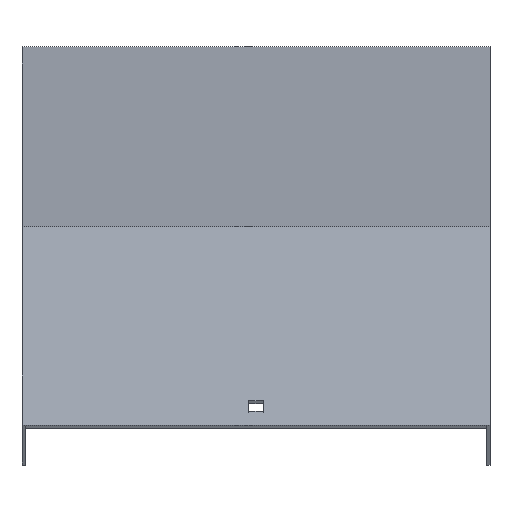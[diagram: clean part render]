
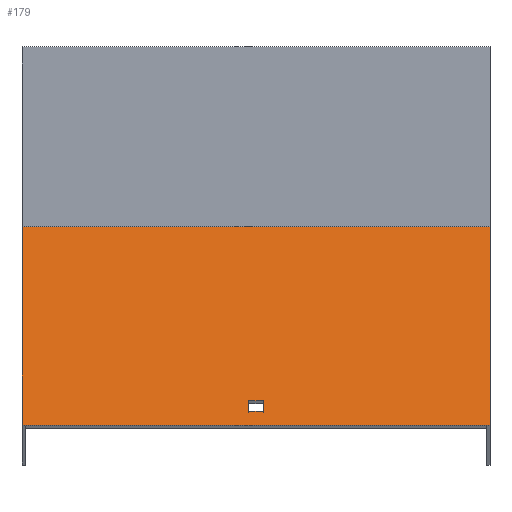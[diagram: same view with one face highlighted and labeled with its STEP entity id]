
A CAD part, top view. The second image highlights one B-rep face of the part: STEP entity #179.
In plain terms, the highlighted planar face has unit normal (0, 0.866, 0.5).
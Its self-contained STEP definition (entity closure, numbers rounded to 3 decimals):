
#26 = AXIS2_PLACEMENT_3D ( 'NONE', #775, #314, #49 ) ;
#40 = LINE ( 'NONE', #506, #609 ) ;
#49 = DIRECTION ( 'NONE',  ( 0., 0.5, -0.866 ) ) ;
#58 = FACE_BOUND ( 'NONE', #307, .T. ) ;
#62 = VECTOR ( 'NONE', #709, 1000. ) ;
#89 = ORIENTED_EDGE ( 'NONE', *, *, #629, .T. ) ;
#94 = EDGE_CURVE ( 'NONE', #106, #350, #237, .T. ) ;
#100 = DIRECTION ( 'NONE',  ( 0., 0.5, -0.866 ) ) ;
#106 = VERTEX_POINT ( 'NONE', #170 ) ;
#111 = VERTEX_POINT ( 'NONE', #748 ) ;
#137 = EDGE_CURVE ( 'NONE', #837, #717, #711, .T. ) ;
#144 = CARTESIAN_POINT ( 'NONE',  ( 3.25, -138.808, 604.678 ) ) ;
#168 = DIRECTION ( 'NONE',  ( -1., 0., 0. ) ) ;
#170 = CARTESIAN_POINT ( 'NONE',  ( 101.5, -144.808, 615.07 ) ) ;
#179 = ADVANCED_FACE ( 'NONE', ( #58, #246 ), #444, .F. ) ;
#229 = CARTESIAN_POINT ( 'NONE',  ( -3.25, -59.808, 467.846 ) ) ;
#237 = LINE ( 'NONE', #296, #316 ) ;
#246 = FACE_OUTER_BOUND ( 'NONE', #685, .T. ) ;
#249 = VECTOR ( 'NONE', #100, 1000. ) ;
#258 = ORIENTED_EDGE ( 'NONE', *, *, #137, .T. ) ;
#266 = CARTESIAN_POINT ( 'NONE',  ( 101.5, -59.808, 467.846 ) ) ;
#296 = CARTESIAN_POINT ( 'NONE',  ( 101.5, -144.808, 615.07 ) ) ;
#307 = EDGE_LOOP ( 'NONE', ( #412, #258, #89, #683 ) ) ;
#314 = DIRECTION ( 'NONE',  ( 0., -0.866, -0.5 ) ) ;
#316 = VECTOR ( 'NONE', #485, 1000. ) ;
#324 = DIRECTION ( 'NONE',  ( 1., 0., 0. ) ) ;
#333 = VERTEX_POINT ( 'NONE', #546 ) ;
#340 = EDGE_CURVE ( 'NONE', #111, #837, #534, .T. ) ;
#350 = VERTEX_POINT ( 'NONE', #472 ) ;
#370 = VECTOR ( 'NONE', #536, 1000. ) ;
#379 = ORIENTED_EDGE ( 'NONE', *, *, #94, .F. ) ;
#407 = CARTESIAN_POINT ( 'NONE',  ( 101.5, -58.491, 465.566 ) ) ;
#411 = LINE ( 'NONE', #761, #788 ) ;
#412 = ORIENTED_EDGE ( 'NONE', *, *, #340, .T. ) ;
#435 = DIRECTION ( 'NONE',  ( -1., 0., 0. ) ) ;
#444 = PLANE ( 'NONE',  #26 ) ;
#451 = CARTESIAN_POINT ( 'NONE',  ( 3.25, -59.808, 467.846 ) ) ;
#472 = CARTESIAN_POINT ( 'NONE',  ( -101.5, -144.808, 615.07 ) ) ;
#473 = VECTOR ( 'NONE', #743, 1000. ) ;
#476 = CARTESIAN_POINT ( 'NONE',  ( -101.5, -58.491, 465.566 ) ) ;
#478 = CARTESIAN_POINT ( 'NONE',  ( 101.5, -134.308, 596.884 ) ) ;
#481 = CARTESIAN_POINT ( 'NONE',  ( -101.5, -59.808, 467.846 ) ) ;
#485 = DIRECTION ( 'NONE',  ( -1., 0., 0. ) ) ;
#506 = CARTESIAN_POINT ( 'NONE',  ( 101.5, -58.491, 465.566 ) ) ;
#516 = VERTEX_POINT ( 'NONE', #407 ) ;
#534 = LINE ( 'NONE', #478, #719 ) ;
#536 = DIRECTION ( 'NONE',  ( 0., -0.5, 0.866 ) ) ;
#546 = CARTESIAN_POINT ( 'NONE',  ( -3.25, -138.808, 604.678 ) ) ;
#549 = VERTEX_POINT ( 'NONE', #476 ) ;
#561 = EDGE_CURVE ( 'NONE', #516, #106, #814, .T. ) ;
#590 = EDGE_CURVE ( 'NONE', #549, #350, #680, .T. ) ;
#609 = VECTOR ( 'NONE', #435, 1000. ) ;
#616 = EDGE_CURVE ( 'NONE', #333, #111, #626, .T. ) ;
#626 = LINE ( 'NONE', #229, #249 ) ;
#629 = EDGE_CURVE ( 'NONE', #717, #333, #411, .T. ) ;
#634 = CARTESIAN_POINT ( 'NONE',  ( 3.25, -134.308, 596.884 ) ) ;
#641 = EDGE_CURVE ( 'NONE', #516, #549, #40, .T. ) ;
#644 = ORIENTED_EDGE ( 'NONE', *, *, #561, .F. ) ;
#680 = LINE ( 'NONE', #481, #473 ) ;
#683 = ORIENTED_EDGE ( 'NONE', *, *, #616, .T. ) ;
#685 = EDGE_LOOP ( 'NONE', ( #813, #379, #644, #697 ) ) ;
#697 = ORIENTED_EDGE ( 'NONE', *, *, #641, .T. ) ;
#709 = DIRECTION ( 'NONE',  ( 0., -0.5, 0.866 ) ) ;
#711 = LINE ( 'NONE', #451, #62 ) ;
#717 = VERTEX_POINT ( 'NONE', #144 ) ;
#719 = VECTOR ( 'NONE', #324, 1000. ) ;
#743 = DIRECTION ( 'NONE',  ( 0., -0.5, 0.866 ) ) ;
#748 = CARTESIAN_POINT ( 'NONE',  ( -3.25, -134.308, 596.884 ) ) ;
#761 = CARTESIAN_POINT ( 'NONE',  ( 101.5, -138.808, 604.678 ) ) ;
#775 = CARTESIAN_POINT ( 'NONE',  ( 101.5, -59.808, 467.846 ) ) ;
#788 = VECTOR ( 'NONE', #168, 1000. ) ;
#813 = ORIENTED_EDGE ( 'NONE', *, *, #590, .T. ) ;
#814 = LINE ( 'NONE', #266, #370 ) ;
#837 = VERTEX_POINT ( 'NONE', #634 ) ;
